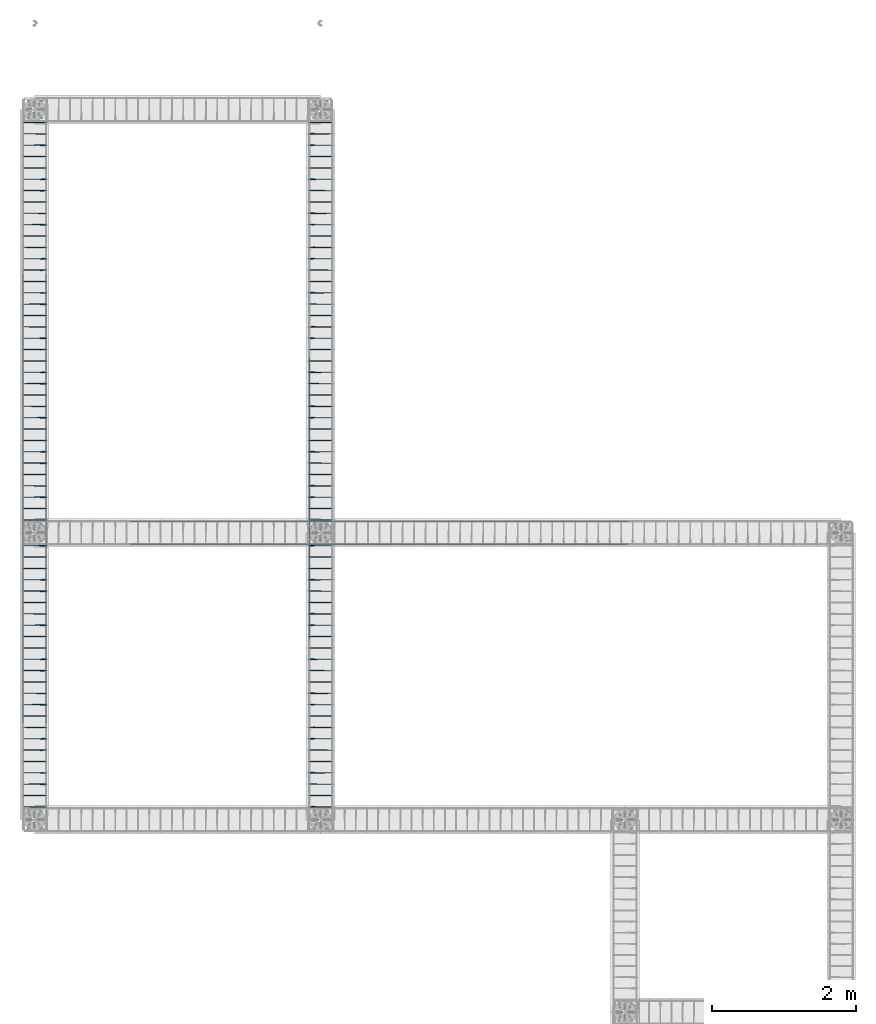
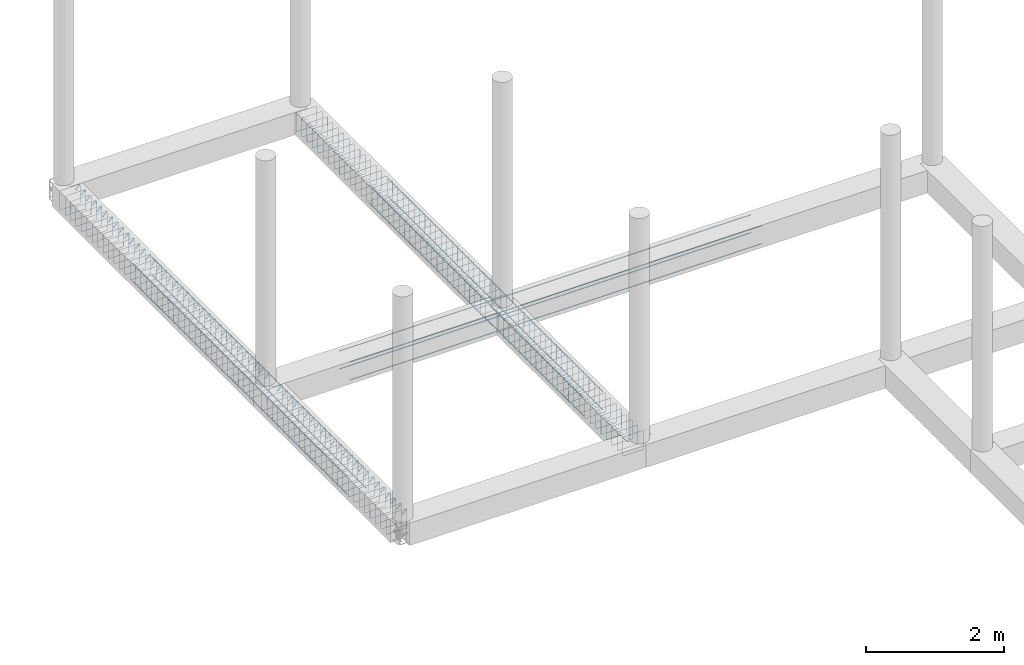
# One storey, part 12 of 20: 5 reinforcing bars.
"""IFC4 building model written with IfcOpenShell, lengths in metres."""

import ifcopenshell
import ifcopenshell.guid

model = None  # the IFC model being written
_history = None  # IfcOwnerHistory: only IFC2X3 demands one
_inside = {}  # id of a spatial element -> (the spatial element, [elements in it])
_under = {}  # id of a project, library or spatial element -> (it, [spatial elements below it])
_declared = {}  # id of a project -> (the project, [libraries it declares])
_typed = {}  # id of a type object -> (the type object, [elements of that type])
_made_of = {}  # id of a material, layer set ... -> (it, [elements and type objects made of it])


def new_model(schema):
    """Start an empty IFC model of exactly this schema.

    Asked for "IFC4X3", IfcOpenShell would pick the latest addendum, in which some entities
    have other attributes; the version numbers below select the first issue.
    IFC2X3 requires an IfcOwnerHistory on every rooted entity: one is made here for all.
    """
    global model, _history
    if schema == "IFC4X3":
        model = ifcopenshell.file(schema_version=(4, 3, 0, 0))
    else:
        model = ifcopenshell.file(schema=schema)
    _inside.clear()
    _under.clear()
    _declared.clear()
    _typed.clear()
    _made_of.clear()
    _history = None
    if model.schema == "IFC2X3":
        org = make("IfcOrganization", Name="unknown")
        user = make(
            "IfcPersonAndOrganization",
            ThePerson=make("IfcPerson", FamilyName="unknown"),
            TheOrganization=org,
        )
        app = make(
            "IfcApplication",
            ApplicationDeveloper=org,
            Version="unknown",
            ApplicationFullName="unknown",
            ApplicationIdentifier="unknown",
        )
        _history = make(
            "IfcOwnerHistory",
            OwningUser=user,
            OwningApplication=app,
            ChangeAction="ADDED",
            CreationDate=0,
        )
    return model


def make(cls, **values):
    """One entity of the class cls with the attributes given. An attribute that is None is left unset."""
    return model.create_entity(
        cls, **{name: value for name, value in values.items() if value is not None}
    )


def entity(cls, *values):
    """Any entity or typed value of the class cls, its attributes in the order of the schema. None: left unset."""
    e = model.create_entity(cls)
    for i, value in enumerate(values):
        if value is not None:
            e[i] = value
    return e


def rooted(cls, **values):
    """An entity with a GlobalId (a new one), such as an element, a storey or a relation."""
    return make(cls, GlobalId=ifcopenshell.guid.new(), OwnerHistory=_history, **values)


def si_unit(unit_type, name, prefix=None):
    """IfcSIUnit, for example si_unit("LENGTHUNIT", "METRE", prefix="MILLI")."""
    return make("IfcSIUnit", UnitType=unit_type, Prefix=prefix, Name=name)


def assignment(units):
    """IfcUnitAssignment: the units of a project."""
    return None if units is None else make("IfcUnitAssignment", Units=units)


def point(xyz):
    """IfcCartesianPoint."""
    return None if xyz is None else make("IfcCartesianPoint", Coordinates=xyz)


def direction(xyz):
    """IfcDirection."""
    return None if xyz is None else make("IfcDirection", DirectionRatios=xyz)


def frame(location, z_axis=None, x_axis=None):
    """IfcAxis2Placement3D, a coordinate frame: its origin and axes. An axis left out is left unset."""
    return make(
        "IfcAxis2Placement3D",
        Location=point(location),
        Axis=direction(z_axis),
        RefDirection=direction(x_axis),
    )


def origin_with_axes():
    """The frame at (0, 0, 0) with the z axis (0, 0, 1) and the x axis (1, 0, 0) written out."""
    return frame((0.0, 0.0, 0.0), z_axis=(0.0, 0.0, 1.0), x_axis=(1.0, 0.0, 0.0))


def place(relative_to, where):
    """IfcLocalPlacement: puts the frame where relative to a parent placement (None: the world)."""
    return make(
        "IfcLocalPlacement", PlacementRelTo=relative_to, RelativePlacement=where
    )


def context(
    kind, dimensions, precision=None, world=None, true_north=None, identifier=None
):
    """IfcGeometricRepresentationContext, for example the 3D "Model" context."""
    return make(
        "IfcGeometricRepresentationContext",
        ContextIdentifier=identifier,
        ContextType=kind,
        CoordinateSpaceDimension=dimensions,
        Precision=precision,
        WorldCoordinateSystem=world,
        TrueNorth=true_north,
    )


def project(units=None, contexts=None):
    """IfcProject with its units and contexts."""
    return rooted(
        "IfcProject",
        Name="project",
        RepresentationContexts=contexts,
        UnitsInContext=assignment(units),
    )


def spatial(cls, under=None, at=None, **own):
    """A site, building, storey or space (cls), placed at a placement, below another one or the project."""
    s = rooted(cls, ObjectPlacement=at, **own)
    if under is not None:
        _under.setdefault(under.id(), (under, []))[1].append(s)
    return s


def shape(context_of_items, identifier, shape_type, items):
    """IfcShapeRepresentation: the items that make up one representation, for example the "Body"."""
    return make(
        "IfcShapeRepresentation",
        ContextOfItems=context_of_items,
        RepresentationIdentifier=identifier,
        RepresentationType=shape_type,
        Items=items,
    )


def source(mapping_origin, context_of_items, identifier, shape_type, items):
    """IfcRepresentationMap: a shape defined once, which mapped items show again and again."""
    return make(
        "IfcRepresentationMap",
        MappingOrigin=mapping_origin,
        MappedRepresentation=shape(context_of_items, identifier, shape_type, items),
    )


def transform(
    local_origin,
    x_axis=None,
    y_axis=None,
    z_axis=None,
    scale=None,
    scale2=None,
    scale3=None,
    uniform=True,
):
    """IfcCartesianTransformationOperator3D, or its non-uniform kind. x_axis, y_axis, z_axis: its Axis1, 2, 3."""
    if uniform:
        return make(
            "IfcCartesianTransformationOperator3D",
            Axis1=direction(x_axis),
            Axis2=direction(y_axis),
            LocalOrigin=point(local_origin),
            Scale=scale,
            Axis3=direction(z_axis),
        )
    return make(
        "IfcCartesianTransformationOperator3DnonUniform",
        Axis1=direction(x_axis),
        Axis2=direction(y_axis),
        LocalOrigin=point(local_origin),
        Scale=scale,
        Axis3=direction(z_axis),
        Scale2=scale2,
        Scale3=scale3,
    )


def mapped(mapping_source, mapping_target):
    """IfcMappedItem: shows the shape of a source again, moved by a transform."""
    return make(
        "IfcMappedItem", MappingSource=mapping_source, MappingTarget=mapping_target
    )


def made_of(thing, what):
    """Note that an element or type object is made of a material, layer set ...; save() writes the relation."""
    if what is not None:
        _made_of.setdefault(what.id(), (what, []))[1].append(thing)
    return thing


def element(
    cls,
    number,
    at=None,
    inside=None,
    cuts=None,
    type_object=None,
    material=None,
    context=None,
    identifier="Body",
    shape_type=None,
    held_by="IfcProductDefinitionShape",
    body=None,
    shapes=None,
    **own,
):
    """One element of the class cls, such as IfcWall. Its Tag is "e" and its number.

    at: its placement. inside: the storey or other place that contains it. cuts: it is an
    opening in that element (IfcRelVoidsElement). A single representation is given by context,
    identifier, shape_type and body (its items); several are given by shapes. held_by: the class
    of the entity that holds the representations. save() writes the other relations.
    """
    e = rooted(cls, Tag="e%d" % number, ObjectPlacement=at, **own)
    if body is not None:
        shapes = [shape(context, identifier, shape_type, body)]
    if shapes is not None:
        e.Representation = make(held_by, Representations=shapes)
    if inside is not None:
        _inside.setdefault(inside.id(), (inside, []))[1].append(e)
    if cuts is not None:
        rooted(
            "IfcRelVoidsElement", RelatingBuildingElement=cuts, RelatedOpeningElement=e
        )
    if type_object is not None:
        _typed.setdefault(type_object.id(), (type_object, []))[1].append(e)
    return made_of(e, material)


def aggregate(whole, parts):
    """IfcRelAggregates: a whole, such as a stair, and the parts it consists of."""
    return rooted("IfcRelAggregates", RelatingObject=whole, RelatedObjects=parts)


def save(model, path):
    """Write the relations noted so far, then the file.

    IfcRelAggregates (storeys below a building ...), IfcRelContainedInSpatialStructure (elements
    in a storey), IfcRelDefinesByType, IfcRelAssociatesMaterial and IfcRelDeclares: one each for
    every whole, place, type object, material and project.
    """
    for whole, parts in _under.values():
        aggregate(whole, parts)
    for where, things in _inside.values():
        rooted(
            "IfcRelContainedInSpatialStructure",
            RelatedElements=things,
            RelatingStructure=where,
        )
    for kind, things in _typed.values():
        rooted("IfcRelDefinesByType", RelatedObjects=things, RelatingType=kind)
    for what, things in _made_of.values():
        rooted("IfcRelAssociatesMaterial", RelatedObjects=things, RelatingMaterial=what)
    for by, libraries in _declared.values():
        rooted("IfcRelDeclares", RelatingContext=by, RelatedDefinitions=libraries)
    model.write(path)


model = new_model("IFC4")

# Units and contexts
model_context = context("Model", 3, precision=1e-05, world=origin_with_axes())
ifc_project = project(units=[si_unit("LENGTHUNIT", "METRE"), si_unit("AREAUNIT", "SQUARE_METRE"), si_unit("VOLUMEUNIT", "CUBIC_METRE"), si_unit("MASSUNIT", "GRAM", prefix="KILO"), si_unit("TIMEUNIT", "SECOND"), si_unit("PLANEANGLEUNIT", "RADIAN"), si_unit("SOLIDANGLEUNIT", "STERADIAN"), si_unit("THERMODYNAMICTEMPERATUREUNIT", "DEGREE_CELSIUS")], contexts=[model_context])

# Site, building, storey
placement_1 = place(None, origin_with_axes())
site = spatial("IfcSite", under=ifc_project, at=placement_1, Name="Italia", CompositionType="ELEMENT")
building = spatial("IfcBuilding", under=site, at=placement_1, Name="Tettoia", CompositionType="ELEMENT")
storey = spatial("IfcBuildingStorey", under=building, at=placement_1, Name="Storey 0", CompositionType="ELEMENT", Elevation=0.0)

# Reinforcing bars
shared_shape_1 = source(origin_with_axes(), model_context, "Body", "AdvancedSweptSolid", [
    entity("IfcSweptDiskSolid", entity("IfcIndexedPolyCurve", entity("IfcCartesianPointList3D", [[1.42727, 13.791, -0.359], [2.01, 13.791, -0.359], [7.755, 13.791, -0.359], [8.33773, 13.791, -0.359]]), [entity("IfcLineIndex", [1, 2]), entity("IfcLineIndex", [2, 3]), entity("IfcLineIndex", [3, 4])], False), 0.008),
])
placement_2 = place(placement_1, origin_with_axes())
reinforcing_bar_1_placement = place(placement_2, origin_with_axes())
element("IfcReinforcingBar", 1, at=reinforcing_bar_1_placement, inside=storey, BarLength=6.91046, CrossSectionArea=0.00020106, NominalDiameter=0.016, context=model_context, shape_type="MappedRepresentation", body=[
    mapped(shared_shape_1, transform((0.0, 0.318001, 0.0), x_axis=(1.0, 0.0, 0.0), y_axis=(0.0, 1.0, 0.0), z_axis=(0.0, 0.0, 1.0), scale=1.0)),
    mapped(shared_shape_1, transform((0.0, 0.0, 0.0), x_axis=(1.0, 0.0, 0.0), y_axis=(0.0, 1.0, 0.0), z_axis=(0.0, 0.0, 1.0), scale=1.0)),
    mapped(shared_shape_1, transform((0.0, 0.318001, 0.318), x_axis=(1.0, 0.0, 0.0), y_axis=(0.0, 1.0, 0.0), z_axis=(0.0, 0.0, 1.0), scale=1.0)),
    mapped(shared_shape_1, transform((0.0, 0.0, 0.318), x_axis=(1.0, 0.0, 0.0), y_axis=(0.0, 1.0, 0.0), z_axis=(0.0, 0.0, 1.0), scale=1.0)),
])
shared_shape_2 = source(origin_with_axes(), model_context, "Body", "AdvancedSweptSolid", [
    entity("IfcSweptDiskSolid", entity("IfcIndexedPolyCurve", entity("IfcCartesianPointList3D", [[0.200289, 10.153, -0.120711], [0.268071, 10.1524, -0.0529289], [0.271, 10.1524, -0.0458579], [0.271, 10.1524, -0.039], [0.270239, 10.1523, -0.0351732], [0.268071, 10.1523, -0.0319289], [0.264827, 10.1523, -0.0297612], [0.261, 10.1523, -0.029], [-0.061, 10.1504, -0.029], [-0.0648268, 10.1504, -0.0297612], [-0.0680711, 10.1504, -0.0319289], [-0.0702388, 10.1503, -0.0351732], [-0.071, 10.1503, -0.039], [-0.071, 10.1484, -0.361], [-0.0702388, 10.1484, -0.364827], [-0.0680711, 10.1484, -0.368071], [-0.0648268, 10.1484, -0.370239], [-0.061, 10.1484, -0.371], [0.261, 10.1465, -0.371], [0.264827, 10.1465, -0.370239], [0.268071, 10.1464, -0.368071], [0.270239, 10.1464, -0.364827], [0.271, 10.1464, -0.361], [0.271, 10.1445, -0.039], [0.270239, 10.1445, -0.0351732], [0.268071, 10.1445, -0.0319289], [0.264827, 10.1445, -0.0297612], [0.261, 10.1444, -0.029], [0.254142, 10.1444, -0.029], [0.247071, 10.1444, -0.0319289], [0.179289, 10.1438, -0.0997114]]), [entity("IfcLineIndex", [1, 2]), entity("IfcLineIndex", [2, 3]), entity("IfcLineIndex", [3, 4]), entity("IfcLineIndex", [4, 5]), entity("IfcLineIndex", [5, 6]), entity("IfcLineIndex", [6, 7]), entity("IfcLineIndex", [7, 8]), entity("IfcLineIndex", [8, 9]), entity("IfcLineIndex", [9, 10]), entity("IfcLineIndex", [10, 11]), entity("IfcLineIndex", [11, 12]), entity("IfcLineIndex", [12, 13]), entity("IfcLineIndex", [13, 14]), entity("IfcLineIndex", [14, 15]), entity("IfcLineIndex", [15, 16]), entity("IfcLineIndex", [16, 17]), entity("IfcLineIndex", [17, 18]), entity("IfcLineIndex", [18, 19]), entity("IfcLineIndex", [19, 20]), entity("IfcLineIndex", [20, 21]), entity("IfcLineIndex", [21, 22]), entity("IfcLineIndex", [22, 23]), entity("IfcLineIndex", [23, 24]), entity("IfcLineIndex", [24, 25]), entity("IfcLineIndex", [25, 26]), entity("IfcLineIndex", [26, 27]), entity("IfcLineIndex", [27, 28]), entity("IfcLineIndex", [28, 29]), entity("IfcLineIndex", [29, 30]), entity("IfcLineIndex", [30, 31])], False), 0.004),
])
reinforcing_bar_2_placement = place(placement_2, origin_with_axes())
element("IfcReinforcingBar", 2, at=reinforcing_bar_2_placement, inside=storey, BarLength=1.5868, CrossSectionArea=5.0265e-05, NominalDiameter=0.008, context=model_context, shape_type="MappedRepresentation", body=[
    mapped(shared_shape_2, transform((0.00233728, 6.97215, -0.00233805), x_axis=(1.0, 0.000230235, 0.0), y_axis=(-0.000230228, 1.0, 0.000230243), z_axis=(0.0, -0.000230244, 1.0), scale=1.0)),
    mapped(shared_shape_2, transform((0.00233728, 6.81467, -0.00233805), x_axis=(1.0, 0.000230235, 0.0), y_axis=(-0.000230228, 1.0, 0.000230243), z_axis=(0.0, -0.000230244, 1.0), scale=1.0)),
    mapped(shared_shape_2, transform((0.00233728, 6.65718, -0.00233805), x_axis=(1.0, 0.000230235, 0.0), y_axis=(-0.000230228, 1.0, 0.000230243), z_axis=(0.0, -0.000230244, 1.0), scale=1.0)),
    mapped(shared_shape_2, transform((0.00233728, 6.34221, -0.00233805), x_axis=(1.0, 0.000230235, 0.0), y_axis=(-0.000230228, 1.0, 0.000230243), z_axis=(0.0, -0.000230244, 1.0), scale=1.0)),
    mapped(shared_shape_2, transform((0.00233728, 6.18472, -0.00233805), x_axis=(1.0, 0.000230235, 0.0), y_axis=(-0.000230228, 1.0, 0.000230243), z_axis=(0.0, -0.000230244, 1.0), scale=1.0)),
    mapped(shared_shape_2, transform((0.00233728, 7.12964, -0.00233805), x_axis=(1.0, 0.000230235, 0.0), y_axis=(-0.000230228, 1.0, 0.000230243), z_axis=(0.0, -0.000230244, 1.0), scale=1.0)),
    mapped(shared_shape_2, transform((0.0, 5.71234, 0.0), x_axis=(1.0, 0.0, 0.0), y_axis=(0.0, 1.0, 0.0), z_axis=(0.0, 0.0, 1.0), scale=1.0)),
    mapped(shared_shape_2, transform((0.0, 5.55486, 0.0), x_axis=(1.0, 0.0, 0.0), y_axis=(0.0, 1.0, 0.0), z_axis=(0.0, 0.0, 1.0), scale=1.0)),
    mapped(shared_shape_2, transform((0.00233728, 6.4997, -0.00233805), x_axis=(1.0, 0.000230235, 0.0), y_axis=(-0.000230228, 1.0, 0.000230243), z_axis=(0.0, -0.000230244, 1.0), scale=1.0)),
    mapped(shared_shape_2, transform((0.0, 5.0824, 0.0), x_axis=(1.0, 0.0, 0.0), y_axis=(0.0, 1.0, 0.0), z_axis=(0.0, 0.0, 1.0), scale=1.0)),
    mapped(shared_shape_2, transform((0.00233728, 6.02724, -0.00233805), x_axis=(1.0, 0.000230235, 0.0), y_axis=(-0.000230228, 1.0, 0.000230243), z_axis=(0.0, -0.000230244, 1.0), scale=1.0)),
    mapped(shared_shape_2, transform((0.00233728, 5.86975, -0.00233805), x_axis=(1.0, 0.000230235, 0.0), y_axis=(-0.000230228, 1.0, 0.000230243), z_axis=(0.0, -0.000230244, 1.0), scale=1.0)),
    mapped(shared_shape_2, transform((0.00233728, 9.17696, -0.00233805), x_axis=(1.0, 0.000230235, 0.0), y_axis=(-0.000230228, 1.0, 0.000230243), z_axis=(0.0, -0.000230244, 1.0), scale=1.0)),
    mapped(shared_shape_2, transform((0.0, 5.39737, 0.0), x_axis=(1.0, 0.0, 0.0), y_axis=(0.0, 1.0, 0.0), z_axis=(0.0, 0.0, 1.0), scale=1.0)),
    mapped(shared_shape_2, transform((0.0, 5.23988, 0.0), x_axis=(1.0, 0.0, 0.0), y_axis=(0.0, 1.0, 0.0), z_axis=(0.0, 0.0, 1.0), scale=1.0)),
    mapped(shared_shape_2, transform((0.0, 4.92491, 0.0), x_axis=(1.0, 0.0, 0.0), y_axis=(0.0, 1.0, 0.0), z_axis=(0.0, 0.0, 1.0), scale=1.0)),
    mapped(shared_shape_2, transform((0.00233728, 9.49193, -0.00233805), x_axis=(1.0, 0.000230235, 0.0), y_axis=(-0.000230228, 1.0, 0.000230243), z_axis=(0.0, -0.000230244, 1.0), scale=1.0)),
    mapped(shared_shape_2, transform((0.00233728, 9.33444, -0.00233805), x_axis=(1.0, 0.000230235, 0.0), y_axis=(-0.000230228, 1.0, 0.000230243), z_axis=(0.0, -0.000230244, 1.0), scale=1.0)),
    mapped(shared_shape_2, transform((0.00233728, 9.01947, -0.00233805), x_axis=(1.0, 0.000230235, 0.0), y_axis=(-0.000230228, 1.0, 0.000230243), z_axis=(0.0, -0.000230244, 1.0), scale=1.0)),
    mapped(shared_shape_2, transform((0.00233728, 8.86198, -0.00233805), x_axis=(1.0, 0.000230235, 0.0), y_axis=(-0.000230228, 1.0, 0.000230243), z_axis=(0.0, -0.000230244, 1.0), scale=1.0)),
    mapped(shared_shape_2, transform((0.00233728, 8.7045, -0.00233805), x_axis=(1.0, 0.000230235, 0.0), y_axis=(-0.000230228, 1.0, 0.000230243), z_axis=(0.0, -0.000230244, 1.0), scale=1.0)),
    mapped(shared_shape_2, transform((0.00233728, 8.38953, -0.00233805), x_axis=(1.0, 0.000230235, 0.0), y_axis=(-0.000230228, 1.0, 0.000230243), z_axis=(0.0, -0.000230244, 1.0), scale=1.0)),
    mapped(shared_shape_2, transform((0.00233728, 8.23204, -0.00233805), x_axis=(1.0, 0.000230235, 0.0), y_axis=(-0.000230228, 1.0, 0.000230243), z_axis=(0.0, -0.000230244, 1.0), scale=1.0)),
    mapped(shared_shape_2, transform((0.00233728, 8.07455, -0.00233805), x_axis=(1.0, 0.000230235, 0.0), y_axis=(-0.000230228, 1.0, 0.000230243), z_axis=(0.0, -0.000230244, 1.0), scale=1.0)),
    mapped(shared_shape_2, transform((0.00233728, 7.75958, -0.00233805), x_axis=(1.0, 0.000230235, 0.0), y_axis=(-0.000230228, 1.0, 0.000230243), z_axis=(0.0, -0.000230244, 1.0), scale=1.0)),
    mapped(shared_shape_2, transform((0.00233728, 7.6021, -0.00233805), x_axis=(1.0, 0.000230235, 0.0), y_axis=(-0.000230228, 1.0, 0.000230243), z_axis=(0.0, -0.000230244, 1.0), scale=1.0)),
    mapped(shared_shape_2, transform((0.00233728, 8.54701, -0.00233805), x_axis=(1.0, 0.000230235, 0.0), y_axis=(-0.000230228, 1.0, 0.000230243), z_axis=(0.0, -0.000230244, 1.0), scale=1.0)),
    mapped(shared_shape_2, transform((0.0, 2.20469, 0.0), x_axis=(1.0, 0.0, 0.0), y_axis=(0.0, 1.0, 0.0), z_axis=(0.0, 0.0, 1.0), scale=1.0)),
    mapped(shared_shape_2, transform((0.0, 2.04722, 0.0), x_axis=(1.0, 0.0, 0.0), y_axis=(0.0, 1.0, 0.0), z_axis=(0.0, 0.0, 1.0), scale=1.0)),
    mapped(shared_shape_2, transform((0.00233728, 7.91707, -0.00233805), x_axis=(1.0, 0.000230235, 0.0), y_axis=(-0.000230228, 1.0, 0.000230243), z_axis=(0.0, -0.000230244, 1.0), scale=1.0)),
    mapped(shared_shape_2, transform((0.0, 1.57478, 0.0), x_axis=(1.0, 0.0, 0.0), y_axis=(0.0, 1.0, 0.0), z_axis=(0.0, 0.0, 1.0), scale=1.0)),
    mapped(shared_shape_2, transform((0.00233728, 7.44461, -0.00233805), x_axis=(1.0, 0.000230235, 0.0), y_axis=(-0.000230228, 1.0, 0.000230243), z_axis=(0.0, -0.000230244, 1.0), scale=1.0)),
    mapped(shared_shape_2, transform((0.00233728, 7.28712, -0.00233805), x_axis=(1.0, 0.000230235, 0.0), y_axis=(-0.000230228, 1.0, 0.000230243), z_axis=(0.0, -0.000230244, 1.0), scale=1.0)),
    mapped(shared_shape_2, transform((0.0, 0.944868, 0.0), x_axis=(1.0, 0.0, 0.0), y_axis=(0.0, 1.0, 0.0), z_axis=(0.0, 0.0, 1.0), scale=1.0)),
    mapped(shared_shape_2, transform((0.0, 1.88974, 0.0), x_axis=(1.0, 0.0, 0.0), y_axis=(0.0, 1.0, 0.0), z_axis=(0.0, 0.0, 1.0), scale=1.0)),
    mapped(shared_shape_2, transform((0.0, 1.73226, 0.0), x_axis=(1.0, 0.0, 0.0), y_axis=(0.0, 1.0, 0.0), z_axis=(0.0, 0.0, 1.0), scale=1.0)),
    mapped(shared_shape_2, transform((0.0, 1.4173, 0.0), x_axis=(1.0, 0.0, 0.0), y_axis=(0.0, 1.0, 0.0), z_axis=(0.0, 0.0, 1.0), scale=1.0)),
    mapped(shared_shape_2, transform((0.0, 1.25982, 0.0), x_axis=(1.0, 0.0, 0.0), y_axis=(0.0, 1.0, 0.0), z_axis=(0.0, 0.0, 1.0), scale=1.0)),
    mapped(shared_shape_2, transform((0.0, 1.10235, 0.0), x_axis=(1.0, 0.0, 0.0), y_axis=(0.0, 1.0, 0.0), z_axis=(0.0, 0.0, 1.0), scale=1.0)),
    mapped(shared_shape_2, transform((0.0, 0.787391, 0.0), x_axis=(1.0, 0.0, 0.0), y_axis=(0.0, 1.0, 0.0), z_axis=(0.0, 0.0, 1.0), scale=1.0)),
    mapped(shared_shape_2, transform((0.0, 0.629912, 0.0), x_axis=(1.0, 0.0, 0.0), y_axis=(0.0, 1.0, 0.0), z_axis=(0.0, 0.0, 1.0), scale=1.0)),
    mapped(shared_shape_2, transform((0.0, 0.472434, 0.0), x_axis=(1.0, 0.0, 0.0), y_axis=(0.0, 1.0, 0.0), z_axis=(0.0, 0.0, 1.0), scale=1.0)),
    mapped(shared_shape_2, transform((0.0, 0.157477, 0.0), x_axis=(1.0, 0.0, 0.0), y_axis=(0.0, 1.0, 0.0), z_axis=(0.0, 0.0, 1.0), scale=1.0)),
    mapped(shared_shape_2, transform((0.0, 0.0, 0.0), x_axis=(1.0, 0.0, 0.0), y_axis=(0.0, 1.0, 0.0), z_axis=(0.0, 0.0, 1.0), scale=1.0)),
    mapped(shared_shape_2, transform((0.0, 4.76743, 0.0), x_axis=(1.0, 0.0, 0.0), y_axis=(0.0, 1.0, 0.0), z_axis=(0.0, 0.0, 1.0), scale=1.0)),
    mapped(shared_shape_2, transform((0.0, 4.45246, 0.0), x_axis=(1.0, 0.0, 0.0), y_axis=(0.0, 1.0, 0.0), z_axis=(0.0, 0.0, 1.0), scale=1.0)),
    mapped(shared_shape_2, transform((0.0, 4.29497, 0.0), x_axis=(1.0, 0.0, 0.0), y_axis=(0.0, 1.0, 0.0), z_axis=(0.0, 0.0, 1.0), scale=1.0)),
    mapped(shared_shape_2, transform((0.0, 0.314956, 0.0), x_axis=(1.0, 0.0, 0.0), y_axis=(0.0, 1.0, 0.0), z_axis=(0.0, 0.0, 1.0), scale=1.0)),
    mapped(shared_shape_2, transform((0.0, 3.622, 0.0), x_axis=(1.0, 0.0, 0.0), y_axis=(0.0, 1.0, 0.0), z_axis=(0.0, 0.0, 1.0), scale=1.0)),
    mapped(shared_shape_2, transform((0.0, 3.46452, 0.0), x_axis=(1.0, 0.0, 0.0), y_axis=(0.0, 1.0, 0.0), z_axis=(0.0, 0.0, 1.0), scale=1.0)),
    mapped(shared_shape_2, transform((0.0, 4.60994, 0.0), x_axis=(1.0, 0.0, 0.0), y_axis=(0.0, 1.0, 0.0), z_axis=(0.0, 0.0, 1.0), scale=1.0)),
    mapped(shared_shape_2, transform((0.0, 2.99209, 0.0), x_axis=(1.0, 0.0, 0.0), y_axis=(0.0, 1.0, 0.0), z_axis=(0.0, 0.0, 1.0), scale=1.0)),
    mapped(shared_shape_2, transform((0.0, 4.13748, 0.0), x_axis=(1.0, 0.0, 0.0), y_axis=(0.0, 1.0, 0.0), z_axis=(0.0, 0.0, 1.0), scale=1.0)),
    mapped(shared_shape_2, transform((0.0, 3.98, 0.0), x_axis=(1.0, 0.0, 0.0), y_axis=(0.0, 1.0, 0.0), z_axis=(0.0, 0.0, 1.0), scale=1.0)),
    mapped(shared_shape_2, transform((0.0, 2.36217, 0.0), x_axis=(1.0, 0.0, 0.0), y_axis=(0.0, 1.0, 0.0), z_axis=(0.0, 0.0, 1.0), scale=1.0)),
    mapped(shared_shape_2, transform((0.0, 3.30704, 0.0), x_axis=(1.0, 0.0, 0.0), y_axis=(0.0, 1.0, 0.0), z_axis=(0.0, 0.0, 1.0), scale=1.0)),
    mapped(shared_shape_2, transform((0.0, 3.14956, 0.0), x_axis=(1.0, 0.0, 0.0), y_axis=(0.0, 1.0, 0.0), z_axis=(0.0, 0.0, 1.0), scale=1.0)),
    mapped(shared_shape_2, transform((0.0, 2.83461, 0.0), x_axis=(1.0, 0.0, 0.0), y_axis=(0.0, 1.0, 0.0), z_axis=(0.0, 0.0, 1.0), scale=1.0)),
    mapped(shared_shape_2, transform((0.0, 2.67713, 0.0), x_axis=(1.0, 0.0, 0.0), y_axis=(0.0, 1.0, 0.0), z_axis=(0.0, 0.0, 1.0), scale=1.0)),
    mapped(shared_shape_2, transform((0.0, 2.51965, 0.0), x_axis=(1.0, 0.0, 0.0), y_axis=(0.0, 1.0, 0.0), z_axis=(0.0, 0.0, 1.0), scale=1.0)),
])
shared_shape_3 = source(origin_with_axes(), model_context, "Body", "AdvancedSweptSolid", [
    entity("IfcSweptDiskSolid", entity("IfcIndexedPolyCurve", entity("IfcCartesianPointList3D", [[0.259, 11.3023, -0.359], [0.259, 11.885, -0.359], [0.259, 16.96, -0.359], [0.259, 17.5427, -0.359]]), [entity("IfcLineIndex", [1, 2]), entity("IfcLineIndex", [2, 3]), entity("IfcLineIndex", [3, 4])], False), 0.008),
])
reinforcing_bar_3_placement = place(placement_2, origin_with_axes())
element("IfcReinforcingBar", 3, at=reinforcing_bar_3_placement, inside=storey, BarLength=6.24045, CrossSectionArea=0.00020106, NominalDiameter=0.016, context=model_context, shape_type="MappedRepresentation", body=[
    mapped(shared_shape_3, transform((-0.318, 0.0, 0.0), x_axis=(1.0, 0.0, 0.0), y_axis=(0.0, 1.0, 0.0), z_axis=(0.0, 0.0, 1.0), scale=1.0)),
    mapped(shared_shape_3, transform((0.0, 0.0, 0.0), x_axis=(1.0, 0.0, 0.0), y_axis=(0.0, 1.0, 0.0), z_axis=(0.0, 0.0, 1.0), scale=1.0)),
    mapped(shared_shape_3, transform((-0.318, 0.0, 0.318), x_axis=(1.0, 0.0, 0.0), y_axis=(0.0, 1.0, 0.0), z_axis=(0.0, 0.0, 1.0), scale=1.0)),
    mapped(shared_shape_3, transform((0.0, 0.0, 0.318), x_axis=(1.0, 0.0, 0.0), y_axis=(0.0, 1.0, 0.0), z_axis=(0.0, 0.0, 1.0), scale=1.0)),
])
shared_shape_4 = source(origin_with_axes(), model_context, "Body", "AdvancedSweptSolid", [
    entity("IfcSweptDiskSolid", entity("IfcIndexedPolyCurve", entity("IfcCartesianPointList3D", [[3.96971, 10.145, -0.120711], [3.90193, 10.1456, -0.0529289], [3.899, 10.1456, -0.0458579], [3.899, 10.1456, -0.039], [3.89976, 10.1457, -0.0351732], [3.90193, 10.1457, -0.0319289], [3.90517, 10.1457, -0.0297612], [3.909, 10.1457, -0.029], [4.231, 10.1476, -0.029], [4.23483, 10.1476, -0.0297612], [4.23807, 10.1476, -0.0319289], [4.24024, 10.1477, -0.0351732], [4.241, 10.1477, -0.039], [4.241, 10.1496, -0.361], [4.24024, 10.1496, -0.364827], [4.23807, 10.1496, -0.368071], [4.23483, 10.1496, -0.370239], [4.231, 10.1496, -0.371], [3.909, 10.1515, -0.371], [3.90517, 10.1515, -0.370239], [3.90193, 10.1516, -0.368071], [3.89976, 10.1516, -0.364827], [3.899, 10.1516, -0.361], [3.899, 10.1535, -0.039], [3.89976, 10.1535, -0.0351732], [3.90193, 10.1535, -0.0319289], [3.90517, 10.1535, -0.0297612], [3.909, 10.1536, -0.029], [3.91586, 10.1536, -0.029], [3.92293, 10.1536, -0.0319289], [3.99071, 10.1542, -0.0997114]]), [entity("IfcLineIndex", [1, 2]), entity("IfcLineIndex", [2, 3]), entity("IfcLineIndex", [3, 4]), entity("IfcLineIndex", [4, 5]), entity("IfcLineIndex", [5, 6]), entity("IfcLineIndex", [6, 7]), entity("IfcLineIndex", [7, 8]), entity("IfcLineIndex", [8, 9]), entity("IfcLineIndex", [9, 10]), entity("IfcLineIndex", [10, 11]), entity("IfcLineIndex", [11, 12]), entity("IfcLineIndex", [12, 13]), entity("IfcLineIndex", [13, 14]), entity("IfcLineIndex", [14, 15]), entity("IfcLineIndex", [15, 16]), entity("IfcLineIndex", [16, 17]), entity("IfcLineIndex", [17, 18]), entity("IfcLineIndex", [18, 19]), entity("IfcLineIndex", [19, 20]), entity("IfcLineIndex", [20, 21]), entity("IfcLineIndex", [21, 22]), entity("IfcLineIndex", [22, 23]), entity("IfcLineIndex", [23, 24]), entity("IfcLineIndex", [24, 25]), entity("IfcLineIndex", [25, 26]), entity("IfcLineIndex", [26, 27]), entity("IfcLineIndex", [27, 28]), entity("IfcLineIndex", [28, 29]), entity("IfcLineIndex", [29, 30]), entity("IfcLineIndex", [30, 31])], False), 0.004),
])
reinforcing_bar_4_placement = place(placement_2, origin_with_axes())
element("IfcReinforcingBar", 4, at=reinforcing_bar_4_placement, inside=storey, BarLength=1.5868, CrossSectionArea=5.0265e-05, NominalDiameter=0.008, context=model_context, shape_type="MappedRepresentation", body=[
    mapped(shared_shape_4, transform((0.0, 4.92491, 0.0), x_axis=(1.0, 0.0, 0.0), y_axis=(0.0, 1.0, 0.0), z_axis=(0.0, 0.0, 1.0), scale=1.0)),
    mapped(shared_shape_4, transform((0.0, 2.20469, 0.0), x_axis=(1.0, 0.0, 0.0), y_axis=(0.0, 1.0, 0.0), z_axis=(0.0, 0.0, 1.0), scale=1.0)),
    mapped(shared_shape_4, transform((0.0, 5.71234, 0.0), x_axis=(1.0, 0.0, 0.0), y_axis=(0.0, 1.0, 0.0), z_axis=(0.0, 0.0, 1.0), scale=1.0)),
    mapped(shared_shape_4, transform((0.0, 5.39737, 0.0), x_axis=(1.0, 0.0, 0.0), y_axis=(0.0, 1.0, 0.0), z_axis=(0.0, 0.0, 1.0), scale=1.0)),
    mapped(shared_shape_4, transform((0.0, 5.23989, 0.0), x_axis=(1.0, 0.0, 0.0), y_axis=(0.0, 1.0, 0.0), z_axis=(0.0, 0.0, 1.0), scale=1.0)),
    mapped(shared_shape_4, transform((0.0, 5.0824, 0.0), x_axis=(1.0, 0.0, 0.0), y_axis=(0.0, 1.0, 0.0), z_axis=(0.0, 0.0, 1.0), scale=1.0)),
    mapped(shared_shape_4, transform((0.0, 1.10235, 0.0), x_axis=(1.0, 0.0, 0.0), y_axis=(0.0, 1.0, 0.0), z_axis=(0.0, 0.0, 1.0), scale=1.0)),
    mapped(shared_shape_4, transform((0.0, 2.04722, 0.0), x_axis=(1.0, 0.0, 0.0), y_axis=(0.0, 1.0, 0.0), z_axis=(0.0, 0.0, 1.0), scale=1.0)),
    mapped(shared_shape_4, transform((0.0, 5.55486, 0.0), x_axis=(1.0, 0.0, 0.0), y_axis=(0.0, 1.0, 0.0), z_axis=(0.0, 0.0, 1.0), scale=1.0)),
    mapped(shared_shape_4, transform((0.0, 1.57478, 0.0), x_axis=(1.0, 0.0, 0.0), y_axis=(0.0, 1.0, 0.0), z_axis=(0.0, 0.0, 1.0), scale=1.0)),
    mapped(shared_shape_4, transform((0.0, 1.4173, 0.0), x_axis=(1.0, 0.0, 0.0), y_axis=(0.0, 1.0, 0.0), z_axis=(0.0, 0.0, 1.0), scale=1.0)),
    mapped(shared_shape_4, transform((0.0, 1.25983, 0.0), x_axis=(1.0, 0.0, 0.0), y_axis=(0.0, 1.0, 0.0), z_axis=(0.0, 0.0, 1.0), scale=1.0)),
    mapped(shared_shape_4, transform((0.0, 0.944869, 0.0), x_axis=(1.0, 0.0, 0.0), y_axis=(0.0, 1.0, 0.0), z_axis=(0.0, 0.0, 1.0), scale=1.0)),
    mapped(shared_shape_4, transform((0.0, 1.88974, 0.0), x_axis=(1.0, 0.0, 0.0), y_axis=(0.0, 1.0, 0.0), z_axis=(0.0, 0.0, 1.0), scale=1.0)),
    mapped(shared_shape_4, transform((0.0, 1.73226, 0.0), x_axis=(1.0, 0.0, 0.0), y_axis=(0.0, 1.0, 0.0), z_axis=(0.0, 0.0, 1.0), scale=1.0)),
    mapped(shared_shape_4, transform((0.0, 2.67713, 0.0), x_axis=(1.0, 0.0, 0.0), y_axis=(0.0, 1.0, 0.0), z_axis=(0.0, 0.0, 1.0), scale=1.0)),
    mapped(shared_shape_4, transform((0.0, 2.51965, 0.0), x_axis=(1.0, 0.0, 0.0), y_axis=(0.0, 1.0, 0.0), z_axis=(0.0, 0.0, 1.0), scale=1.0)),
    mapped(shared_shape_4, transform((0.0, 2.36217, 0.0), x_axis=(1.0, 0.0, 0.0), y_axis=(0.0, 1.0, 0.0), z_axis=(0.0, 0.0, 1.0), scale=1.0)),
    mapped(shared_shape_4, transform((0.0, 3.14956, 0.0), x_axis=(1.0, 0.0, 0.0), y_axis=(0.0, 1.0, 0.0), z_axis=(0.0, 0.0, 1.0), scale=1.0)),
    mapped(shared_shape_4, transform((0.0, 2.99209, 0.0), x_axis=(1.0, 0.0, 0.0), y_axis=(0.0, 1.0, 0.0), z_axis=(0.0, 0.0, 1.0), scale=1.0)),
    mapped(shared_shape_4, transform((0.0, 2.83461, 0.0), x_axis=(1.0, 0.0, 0.0), y_axis=(0.0, 1.0, 0.0), z_axis=(0.0, 0.0, 1.0), scale=1.0)),
    mapped(shared_shape_4, transform((0.0, 3.98, 0.0), x_axis=(1.0, 0.0, 0.0), y_axis=(0.0, 1.0, 0.0), z_axis=(0.0, 0.0, 1.0), scale=1.0)),
    mapped(shared_shape_4, transform((0.0, 3.622, 0.0), x_axis=(1.0, 0.0, 0.0), y_axis=(0.0, 1.0, 0.0), z_axis=(0.0, 0.0, 1.0), scale=1.0)),
    mapped(shared_shape_4, transform((0.0, 4.76743, 0.0), x_axis=(1.0, 0.0, 0.0), y_axis=(0.0, 1.0, 0.0), z_axis=(0.0, 0.0, 1.0), scale=1.0)),
    mapped(shared_shape_4, transform((0.0, 4.45246, 0.0), x_axis=(1.0, 0.0, 0.0), y_axis=(0.0, 1.0, 0.0), z_axis=(0.0, 0.0, 1.0), scale=1.0)),
    mapped(shared_shape_4, transform((0.0, 4.29497, 0.0), x_axis=(1.0, 0.0, 0.0), y_axis=(0.0, 1.0, 0.0), z_axis=(0.0, 0.0, 1.0), scale=1.0)),
    mapped(shared_shape_4, transform((0.0, 4.13749, 0.0), x_axis=(1.0, 0.0, 0.0), y_axis=(0.0, 1.0, 0.0), z_axis=(0.0, 0.0, 1.0), scale=1.0)),
    mapped(shared_shape_4, transform((0.0, 0.157478, 0.0), x_axis=(1.0, 0.0, 0.0), y_axis=(0.0, 1.0, 0.0), z_axis=(0.0, 0.0, 1.0), scale=1.0)),
    mapped(shared_shape_4, transform((0.0, 3.46452, 0.0), x_axis=(1.0, 0.0, 0.0), y_axis=(0.0, 1.0, 0.0), z_axis=(0.0, 0.0, 1.0), scale=1.0)),
    mapped(shared_shape_4, transform((0.0, 4.60994, 0.0), x_axis=(1.0, 0.0, 0.0), y_axis=(0.0, 1.0, 0.0), z_axis=(0.0, 0.0, 1.0), scale=1.0)),
    mapped(shared_shape_4, transform((0.0, 0.629913, 0.0), x_axis=(1.0, 0.0, 0.0), y_axis=(0.0, 1.0, 0.0), z_axis=(0.0, 0.0, 1.0), scale=1.0)),
    mapped(shared_shape_4, transform((0.0, 0.472435, 0.0), x_axis=(1.0, 0.0, 0.0), y_axis=(0.0, 1.0, 0.0), z_axis=(0.0, 0.0, 1.0), scale=1.0)),
    mapped(shared_shape_4, transform((0.0, 0.314957, 0.0), x_axis=(1.0, 0.0, 0.0), y_axis=(0.0, 1.0, 0.0), z_axis=(0.0, 0.0, 1.0), scale=1.0)),
    mapped(shared_shape_4, transform((0.0, 0.0, 0.0), x_axis=(1.0, 0.0, 0.0), y_axis=(0.0, 1.0, 0.0), z_axis=(0.0, 0.0, 1.0), scale=1.0)),
    mapped(shared_shape_4, transform((0.0, 3.30704, 0.0), x_axis=(1.0, 0.0, 0.0), y_axis=(0.0, 1.0, 0.0), z_axis=(0.0, 0.0, 1.0), scale=1.0)),
    mapped(shared_shape_4, transform((0.0, 0.787392, 0.0), x_axis=(1.0, 0.0, 0.0), y_axis=(0.0, 1.0, 0.0), z_axis=(0.0, 0.0, 1.0), scale=1.0)),
    mapped(shared_shape_4, transform((0.00233626, 7.12883, 0.00234315), x_axis=(1.0, 0.000230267, 0.0), y_axis=(-0.000230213, 1.0, -0.00023023), z_axis=(0.0, 0.00023023, 1.0), scale=1.0)),
    mapped(shared_shape_4, transform((0.00233626, 6.97134, 0.00234315), x_axis=(1.0, 0.000230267, 0.0), y_axis=(-0.000230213, 1.0, -0.00023023), z_axis=(0.0, 0.00023023, 1.0), scale=1.0)),
    mapped(shared_shape_4, transform((0.00233626, 6.81386, 0.00234315), x_axis=(1.0, 0.000230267, 0.0), y_axis=(-0.000230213, 1.0, -0.00023023), z_axis=(0.0, 0.00023023, 1.0), scale=1.0)),
    mapped(shared_shape_4, transform((0.00233626, 6.49889, 0.00234315), x_axis=(1.0, 0.000230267, 0.0), y_axis=(-0.000230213, 1.0, -0.00023023), z_axis=(0.0, 0.00023023, 1.0), scale=1.0)),
    mapped(shared_shape_4, transform((0.00233626, 6.3414, 0.00234315), x_axis=(1.0, 0.000230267, 0.0), y_axis=(-0.000230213, 1.0, -0.00023023), z_axis=(0.0, 0.00023023, 1.0), scale=1.0)),
    mapped(shared_shape_4, transform((0.00233626, 6.18391, 0.00234315), x_axis=(1.0, 0.000230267, 0.0), y_axis=(-0.000230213, 1.0, -0.00023023), z_axis=(0.0, 0.00023023, 1.0), scale=1.0)),
    mapped(shared_shape_4, transform((0.00233626, 5.86894, 0.00234315), x_axis=(1.0, 0.000230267, 0.0), y_axis=(-0.000230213, 1.0, -0.00023023), z_axis=(0.0, 0.00023023, 1.0), scale=1.0)),
    mapped(shared_shape_4, transform((0.00233626, 8.07374, 0.00234315), x_axis=(1.0, 0.000230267, 0.0), y_axis=(-0.000230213, 1.0, -0.00023023), z_axis=(0.0, 0.00023023, 1.0), scale=1.0)),
    mapped(shared_shape_4, transform((0.00233626, 6.65637, 0.00234315), x_axis=(1.0, 0.000230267, 0.0), y_axis=(-0.000230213, 1.0, -0.00023023), z_axis=(0.0, 0.00023023, 1.0), scale=1.0)),
    mapped(shared_shape_4, transform((0.00233626, 7.60128, 0.00234315), x_axis=(1.0, 0.000230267, 0.0), y_axis=(-0.000230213, 1.0, -0.00023023), z_axis=(0.0, 0.00023023, 1.0), scale=1.0)),
    mapped(shared_shape_4, transform((0.00233626, 7.4438, 0.00234315), x_axis=(1.0, 0.000230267, 0.0), y_axis=(-0.000230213, 1.0, -0.00023023), z_axis=(0.0, 0.00023023, 1.0), scale=1.0)),
    mapped(shared_shape_4, transform((0.00233626, 6.02643, 0.00234315), x_axis=(1.0, 0.000230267, 0.0), y_axis=(-0.000230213, 1.0, -0.00023023), z_axis=(0.0, 0.00023023, 1.0), scale=1.0)),
    mapped(shared_shape_4, transform((0.00233626, 9.33363, 0.00234315), x_axis=(1.0, 0.000230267, 0.0), y_axis=(-0.000230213, 1.0, -0.00023023), z_axis=(0.0, 0.00023023, 1.0), scale=1.0)),
    mapped(shared_shape_4, transform((0.00233626, 7.91626, 0.00234315), x_axis=(1.0, 0.000230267, 0.0), y_axis=(-0.000230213, 1.0, -0.00023023), z_axis=(0.0, 0.00023023, 1.0), scale=1.0)),
    mapped(shared_shape_4, transform((0.00233626, 7.75877, 0.00234315), x_axis=(1.0, 0.000230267, 0.0), y_axis=(-0.000230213, 1.0, -0.00023023), z_axis=(0.0, 0.00023023, 1.0), scale=1.0)),
    mapped(shared_shape_4, transform((0.00233626, 8.70369, 0.00234315), x_axis=(1.0, 0.000230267, 0.0), y_axis=(-0.000230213, 1.0, -0.00023023), z_axis=(0.0, 0.00023023, 1.0), scale=1.0)),
    mapped(shared_shape_4, transform((0.00233626, 7.28631, 0.00234315), x_axis=(1.0, 0.000230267, 0.0), y_axis=(-0.000230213, 1.0, -0.00023023), z_axis=(0.0, 0.00023023, 1.0), scale=1.0)),
    mapped(shared_shape_4, transform((0.00233626, 9.49112, 0.00234315), x_axis=(1.0, 0.000230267, 0.0), y_axis=(-0.000230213, 1.0, -0.00023023), z_axis=(0.0, 0.00023023, 1.0), scale=1.0)),
    mapped(shared_shape_4, transform((0.00233626, 9.17614, 0.00234315), x_axis=(1.0, 0.000230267, 0.0), y_axis=(-0.000230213, 1.0, -0.00023023), z_axis=(0.0, 0.00023023, 1.0), scale=1.0)),
    mapped(shared_shape_4, transform((0.00233626, 9.01866, 0.00234315), x_axis=(1.0, 0.000230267, 0.0), y_axis=(-0.000230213, 1.0, -0.00023023), z_axis=(0.0, 0.00023023, 1.0), scale=1.0)),
    mapped(shared_shape_4, transform((0.00233626, 8.86117, 0.00234315), x_axis=(1.0, 0.000230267, 0.0), y_axis=(-0.000230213, 1.0, -0.00023023), z_axis=(0.0, 0.00023023, 1.0), scale=1.0)),
    mapped(shared_shape_4, transform((0.00233626, 8.5462, 0.00234315), x_axis=(1.0, 0.000230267, 0.0), y_axis=(-0.000230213, 1.0, -0.00023023), z_axis=(0.0, 0.00023023, 1.0), scale=1.0)),
    mapped(shared_shape_4, transform((0.00233626, 8.38871, 0.00234315), x_axis=(1.0, 0.000230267, 0.0), y_axis=(-0.000230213, 1.0, -0.00023023), z_axis=(0.0, 0.00023023, 1.0), scale=1.0)),
    mapped(shared_shape_4, transform((0.00233626, 8.23123, 0.00234315), x_axis=(1.0, 0.000230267, 0.0), y_axis=(-0.000230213, 1.0, -0.00023023), z_axis=(0.0, 0.00023023, 1.0), scale=1.0)),
])
shared_shape_5 = source(origin_with_axes(), model_context, "Body", "AdvancedSweptSolid", [
    entity("IfcSweptDiskSolid", entity("IfcIndexedPolyCurve", entity("IfcCartesianPointList3D", [[4.229, 11.3023, -0.359], [4.229, 11.885, -0.359], [4.229, 16.96, -0.359], [4.229, 17.5427, -0.359]]), [entity("IfcLineIndex", [1, 2]), entity("IfcLineIndex", [2, 3]), entity("IfcLineIndex", [3, 4])], False), 0.008),
])
reinforcing_bar_5_placement = place(placement_2, origin_with_axes())
element("IfcReinforcingBar", 5, at=reinforcing_bar_5_placement, inside=storey, BarLength=6.24045, CrossSectionArea=0.00020106, NominalDiameter=0.016, context=model_context, shape_type="MappedRepresentation", body=[
    mapped(shared_shape_5, transform((-0.318, 0.0, 0.0), x_axis=(1.0, 0.0, 0.0), y_axis=(0.0, 1.0, 0.0), z_axis=(0.0, 0.0, 1.0), scale=1.0)),
    mapped(shared_shape_5, transform((0.0, 0.0, 0.0), x_axis=(1.0, 0.0, 0.0), y_axis=(0.0, 1.0, 0.0), z_axis=(0.0, 0.0, 1.0), scale=1.0)),
    mapped(shared_shape_5, transform((-0.318, 0.0, 0.318), x_axis=(1.0, 0.0, 0.0), y_axis=(0.0, 1.0, 0.0), z_axis=(0.0, 0.0, 1.0), scale=1.0)),
    mapped(shared_shape_5, transform((0.0, 0.0, 0.318), x_axis=(1.0, 0.0, 0.0), y_axis=(0.0, 1.0, 0.0), z_axis=(0.0, 0.0, 1.0), scale=1.0)),
])

save(model, "model.ifc")
